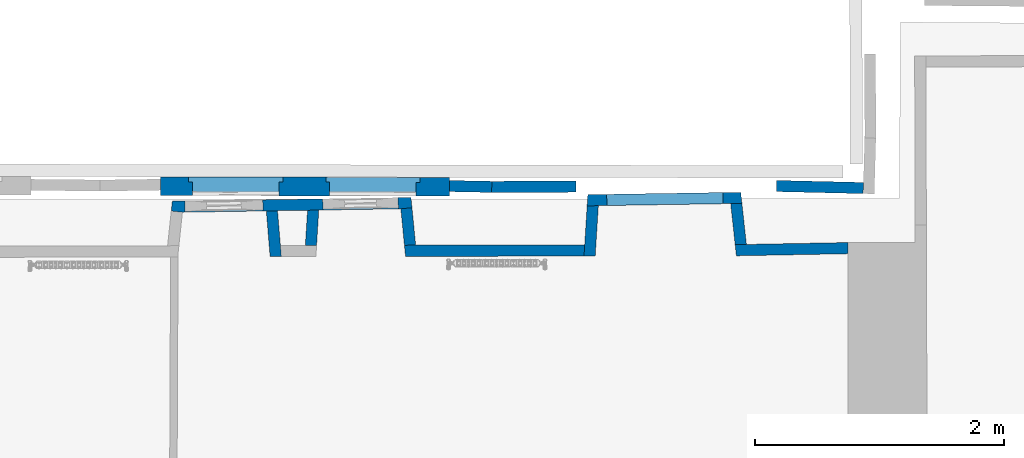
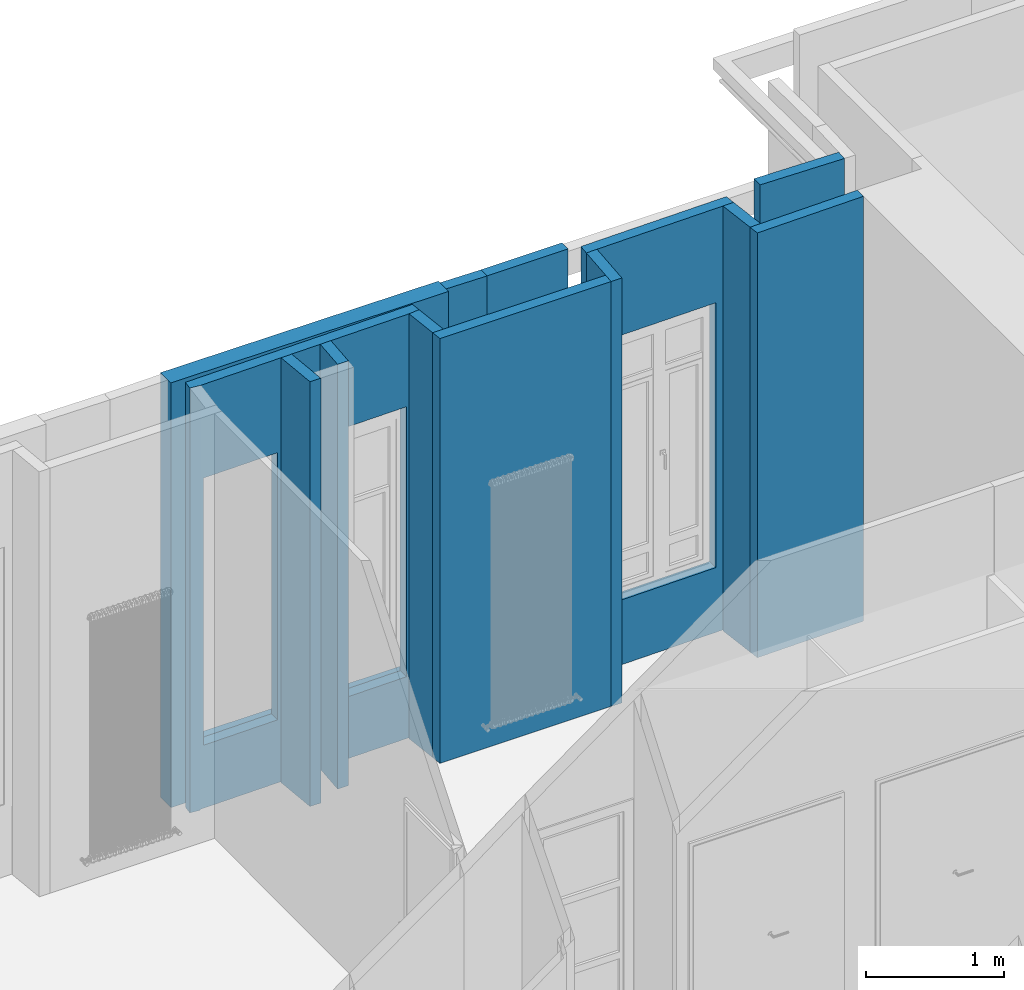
# One storey, part 16 of 66: 13 walls, 8 openings.
"""IFC2X3 building model written with IfcOpenShell, lengths in centimetres."""

from ifc_helpers import new_model, entity, si_unit, converted_unit, direction, frame, origin, origin_with_axes, origin_2d_with_axis, place, context, subcontext, project, spatial, polyline, rectangle, outline, extrude, faceted_brep, shape, material, layer, layer_set, layer_usage, type_object, element, save


model = new_model("IFC2X3")

# Units and contexts
model_context = context("Model", 3, precision=0.0001, world=origin(), true_north=direction((0.225632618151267, 0.974212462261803, 0.0)))
body_context = subcontext(model_context, "Body", "Model", "MODEL_VIEW")
footprint_context = subcontext(model_context, "FootPrint", "Model", "MODEL_VIEW")
profile_context = subcontext(model_context, "Profile", "Model", "MODEL_VIEW")
ifc_project = project(units=[si_unit("LENGTHUNIT", "METRE", prefix="CENTI"), si_unit("AREAUNIT", "SQUARE_METRE", prefix="CENTI"), si_unit("VOLUMEUNIT", "CUBIC_METRE", prefix="CENTI"), converted_unit("PLANEANGLEUNIT", "DEGREE", entity("IfcRatioMeasure", 0.0174532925), si_unit("PLANEANGLEUNIT", "RADIAN"), dimensions=[0, 0, 0, 0, 0, 0, 0])], contexts=[model_context])

# Site, building, storey
site_placement = place(None, origin_with_axes())
site = spatial("IfcSite", under=ifc_project, at=site_placement, Name="Default Site", CompositionType="ELEMENT")
building_placement = place(site_placement, origin_with_axes())
building = spatial("IfcBuilding", under=site, at=building_placement, Name="Default Building", CompositionType="ELEMENT")
storey_placement = place(building_placement, frame((0.0, 0.0, 477.795358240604), z_axis=(0.0, 0.0, 1.0), x_axis=(1.0, 0.0, 0.0)))
storey = spatial("IfcBuildingStorey", under=building, at=storey_placement, Name="Niveau 1", CompositionType="ELEMENT", Elevation=477.795358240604)

# Walls
ifc_material = material(Name="<aucun>")
ifc_layer_1 = layer(ifc_material, 9.0)
ifc_layer_set_1 = layer_set([ifc_layer_1], Name="default")
ifc_layer_usage_1 = layer_usage(ifc_layer_set_1, "AXIS2", "POSITIVE", -4.5)
wall_type_1 = type_object("IfcWallType", Name="default 90", PredefinedType="NOTDEFINED", material=ifc_layer_set_1)
wall_1_placement = place(storey_placement, frame((-122.2620452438, 552.389196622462, 0.0128503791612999), z_axis=(0.0, 0.0, 1.0), x_axis=(0.999997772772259, 0.00211055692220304, 0.0)))
element("IfcWallStandardCase", 1, at=wall_1_placement, inside=storey, type_object=wall_type_1, material=ifc_layer_usage_1, Name="Enveloppe 599598", context=body_context, shape_type="SweptSolid", body=[
    extrude(outline(polyline([(-0.898923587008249, 4.50000000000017), (-0.0289810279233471, -4.50000000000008), (143.497263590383, -4.50000000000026), (144.079388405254, 4.49999999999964), (-0.898923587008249, 4.50000000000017)])), origin_with_axes(), (0.0, 0.0, 1.0), 376.102165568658),
])
ifc_layer_usage_2 = layer_usage(ifc_layer_set_1, "AXIS2", "POSITIVE", -4.5)
wall_2_placement = place(storey_placement, frame((-117.771799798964, 548.012405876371, 0.0128503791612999), z_axis=(0.0, 0.0, 1.0), x_axis=(-0.0983124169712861, 0.995155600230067, 0.0)))
element("IfcWallStandardCase", 2, at=wall_2_placement, inside=storey, type_object=wall_type_1, material=ifc_layer_usage_2, Name="Enveloppe 599631", context=body_context, shape_type="SweptSolid", body=[
    extrude(outline(polyline([(38.8153542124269, 4.49999999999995), (9.36264576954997, 4.50000000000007), (8.49270321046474, -4.49999999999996), (38.8153542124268, -4.50000000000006), (38.8153542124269, 4.49999999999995)])), frame((0.0, 0.0, -3.5527136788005e-13), z_axis=(0.0, 0.0, 1.0), x_axis=(1.0, 0.0, 0.0)), (0.0, 0.0, 1.0), 376.102165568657),
])
ifc_layer_usage_3 = layer_usage(ifc_layer_set_1, "AXIS2", "POSITIVE", -4.5)
wall_3_placement = place(storey_placement, frame((25.7506107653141, 548.15077460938, 0.0128503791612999), z_axis=(0.0, 0.0, 1.0), x_axis=(0.0624393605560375, 0.998048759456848, 0.0)))
element("IfcWallStandardCase", 3, at=wall_3_placement, inside=storey, type_object=wall_type_1, material=ifc_layer_usage_3, Name="Enveloppe 599505", context=body_context, shape_type="SweptSolid", body=[
    extrude(outline(polyline([(-0.240154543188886, 4.50000000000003), (0.341970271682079, -4.50000000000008), (40.9195753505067, -4.50000000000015), (40.2135004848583, 4.49999999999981), (-0.240154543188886, 4.50000000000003)])), frame((0.0, 0.0, 1.77635683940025e-13), z_axis=(0.0, 0.0, 1.0), x_axis=(1.0, 0.0, 0.0)), (0.0, 0.0, 1.0), 376.102165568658),
])
ifc_layer_usage_4 = layer_usage(ifc_layer_set_1, "AXIS2", "POSITIVE", -4.5)
wall_4_placement = place(storey_placement, frame((-226.690951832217, 547.731320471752, 0.0128503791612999), z_axis=(0.0, 0.0, 1.0), x_axis=(-0.0823245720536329, 0.996605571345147, 0.0)))
element("IfcWallStandardCase", 4, at=wall_4_placement, inside=storey, type_object=wall_type_1, material=ifc_layer_usage_4, Name="Enveloppe 600517", context=body_context, shape_type="SweptSolid", body=[
    extrude(outline(polyline([(37.2522362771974, 4.50000000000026), (0.299422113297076, 4.49999999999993), (-0.424901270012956, -4.50000000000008), (36.6518992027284, -4.49999999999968), (37.2522362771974, 4.50000000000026)])), frame((0.0, 0.0, -2.66453525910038e-13), z_axis=(0.0, 0.0, 1.0), x_axis=(1.0, 0.0, 0.0)), (0.0, 0.0, 1.0), 376.102165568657),
])
ifc_layer_usage_5 = layer_usage(ifc_layer_set_1, "AXIS2", "POSITIVE", -4.5)
wall_5_placement = place(storey_placement, frame((148.284601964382, 548.577858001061, 0.0128503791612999), z_axis=(0.0, 0.0, 1.0), x_axis=(-0.108213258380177, 0.994127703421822, 0.0)))
element("IfcWallStandardCase", 5, at=wall_5_placement, inside=storey, type_object=wall_type_1, material=ifc_layer_usage_5, Name="Enveloppe 600231", context=body_context, shape_type="SweptSolid", body=[
    extrude(outline(polyline([(42.5512350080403, 4.5000000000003), (9.34032011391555, 4.50000000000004), (8.53102736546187, -4.49999999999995), (41.7153250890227, -4.49999999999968), (42.5512350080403, 4.5000000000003)])), frame((0.0, 0.0, -8.88178419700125e-14), z_axis=(0.0, 0.0, 1.0), x_axis=(1.0, 0.0, 0.0)), (0.0, 0.0, 1.0), 376.102165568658),
])
ifc_layer_usage_6 = layer_usage(ifc_layer_set_1, "AXIS2", "POSITIVE", -4.5)
wall_6_placement = place(storey_placement, frame((-198.911234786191, 547.710731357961, 0.0128503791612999), z_axis=(0.0, 0.0, 1.0), x_axis=(0.0623847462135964, 0.998052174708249, 0.0)))
element("IfcWallStandardCase", 6, at=wall_6_placement, inside=storey, type_object=wall_type_1, material=ifc_layer_usage_6, Name="Enveloppe 600644", context=body_context, shape_type="SweptSolid", body=[
    extrude(outline(polyline([(8.74467654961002, 4.50000000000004), (9.32630681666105, -4.4999999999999), (37.7970759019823, -4.4971688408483), (37.0917185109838, 4.50000000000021), (8.74467654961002, 4.50000000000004)])), frame((0.0, 0.0, -8.88178419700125e-14), z_axis=(0.0, 0.0, 1.0), x_axis=(1.0, 0.0, 0.0)), (0.0, 0.0, 1.0), 376.102165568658),
])
ifc_layer_usage_7 = layer_usage(ifc_layer_set_1, "AXIS2", "POSITIVE", -4.5)
wall_7_placement = place(storey_placement, frame((143.721002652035, 552.892839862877, 0.0128503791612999), z_axis=(0.0, 0.0, 1.0), x_axis=(0.999824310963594, 0.0187442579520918, 0.0)))
element("IfcWallStandardCase", 7, at=wall_7_placement, inside=storey, type_object=wall_type_1, material=ifc_layer_usage_7, Name="Enveloppe 92581", context=body_context, shape_type="SweptSolid", body=[
    extrude(outline(polyline([(-0.836519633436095, 4.49999999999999), (-0.0272268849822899, -4.50000000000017), (89.782918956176, -4.50000000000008), (89.9243084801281, 4.4999999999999), (-0.836519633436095, 4.49999999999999)])), frame((0.0, 0.0, -1.77635683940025e-13), z_axis=(0.0, 0.0, 1.0), x_axis=(1.0, 0.0, 0.0)), (0.0, 0.0, 1.0), 376.102165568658),
])

# Wall, openings
ifc_layer_usage_8 = layer_usage(ifc_layer_set_1, "AXIS2", "POSITIVE", -4.5)
wall_8_placement = place(storey_placement, frame((28.5653999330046, 593.143177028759, 0.0128503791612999), z_axis=(0.0, 0.0, 1.0), x_axis=(0.999874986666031, 0.0158117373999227, 0.0)))
wall_8 = element("IfcWallStandardCase", 8, at=wall_8_placement, inside=storey, type_object=wall_type_1, material=ifc_layer_usage_8, Name="Enveloppe 92634", context=body_context, shape_type="SweptSolid", body=[
    extrude(outline(polyline([(-4.86686457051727, -4.50000000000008), (119.622427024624, -4.50000000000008), (118.786517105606, 4.49999999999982), (-4.16078970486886, 4.49999999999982), (-4.86686457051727, -4.50000000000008)])), frame((0.0, 0.0, -8.88178419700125e-14), z_axis=(0.0, 0.0, 1.0), x_axis=(1.0, 0.0, 0.0)), (0.0, 0.0, 1.0), 376.102165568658),
])
opening_1_placement = place(wall_8_placement, frame((3.99201043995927, -1.13686837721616e-13, 1.77635683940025e-13), z_axis=(0.0, 0.0, 1.0), x_axis=(-1.0, 2.60208521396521e-16, 0.0)))
cartesian_point_1 = entity("IfcCartesianPoint", [0.0, 0.0, 52.9999999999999])
cartesian_point_2 = entity("IfcCartesianPoint", [-108.569412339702, -4.49999999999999])
element("IfcOpeningElement", 9, at=opening_1_placement, cuts=wall_8, Name="Baie 103201", ObjectType="Recess", shapes=[
    shape(body_context, "Body", "Brep", [faceted_brep([(8.88544016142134e-07, 24.4999869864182, -1.92276757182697e-05), (-108.569413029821, 24.4999870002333, -1.92276757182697e-05), (-108.569413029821, 24.4999870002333, 53.0000017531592), (8.88544016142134e-07, 24.4999869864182, 53.0000017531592), (8.85871851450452e-07, 3.49998051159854, 53.0000017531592), (8.85871851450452e-07, 3.49998051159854, -1.92276757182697e-05), (-1.44246870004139e-07, 3.49998051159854, -1.92276757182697e-05), (-108.569414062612, 3.49999012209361, -1.92276757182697e-05), (-108.569413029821, 24.4999965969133, -1.92276757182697e-05), (-108.569413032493, 3.49999012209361, -1.92276757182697e-05), (-108.569413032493, 3.49999012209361, 53.0000017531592), (-108.569413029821, 24.4999965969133, 53.0000017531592), (-108.569414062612, 3.49999012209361, 53.0000017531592), (-1.44246870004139e-07, 3.49998051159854, 53.0000017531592), (-1.44246868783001e-07, 3.4999901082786, -1.92276757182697e-05), (-1.44246868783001e-07, 3.4999901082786, 53.0000017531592)], [[[0, 1, 2, 3]], [[3, 4, 5, 0]], [[0, 6, 7, 8]], [[8, 9, 10, 11]], [[11, 12, 13, 3]], [[12, 7, 14, 15]]])]),
    shape(profile_context, "Profile", "GeometricCurveSet", [entity("IfcGeometricCurveSet", [entity("IfcPolyline", [cartesian_point_1, entity("IfcCartesianPoint", [0.0, 0.0, -8.88178419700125e-14]), entity("IfcCartesianPoint", [-108.569412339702, 0.0, -8.88178419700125e-14]), entity("IfcCartesianPoint", [-108.569412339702, 0.0, 52.9999999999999]), cartesian_point_1])])]),
    shape(footprint_context, "FootPrint", "GeometricCurveSet", [entity("IfcGeometricCurveSet", [entity("IfcPolyline", [cartesian_point_2, entity("IfcCartesianPoint", [5.55111512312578e-15, -4.49999999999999]), entity("IfcCartesianPoint", [5.55111512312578e-15, 4.49999999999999]), entity("IfcCartesianPoint", [-108.569412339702, 4.49999999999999]), cartesian_point_2])])]),
])
opening_2_placement = place(wall_8_placement, frame((10.9920104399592, -1.13686837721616e-13, 58.1871496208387), z_axis=(0.0, 0.0, 1.0), x_axis=(-1.0, 2.60208521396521e-16, 0.0)))
cartesian_point_3 = entity("IfcCartesianPoint", [0.0, 0.0, 234.405156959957])
cartesian_point_4 = entity("IfcCartesianPoint", [-93.6147419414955, -4.49999999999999])
element("IfcOpeningElement", 10, at=opening_2_placement, cuts=wall_8, Name="4294966424_11", ObjectType="Opening", shapes=[
    shape(body_context, "Body", "SweptSolid", [extrude(outline(polyline([(-5.55111512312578e-15, 234.405156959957), (-5.55111512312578e-15, 0.0), (93.6147419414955, 0.0), (93.6147419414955, 234.405156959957), (-5.55111512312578e-15, 234.405156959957)])), frame((0.0, -14.5, 0.0), z_axis=(0.0, 1.0, 0.0), x_axis=(-1.0, 0.0, 0.0)), (0.0, 0.0, 1.0), 29.0)]),
    shape(profile_context, "Profile", "GeometricCurveSet", [entity("IfcGeometricCurveSet", [entity("IfcPolyline", [cartesian_point_3, entity("IfcCartesianPoint", [0.0, 0.0, 0.0]), entity("IfcCartesianPoint", [-93.6147419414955, 0.0, 0.0]), entity("IfcCartesianPoint", [-93.6147419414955, 0.0, 234.405156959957]), cartesian_point_3])])]),
    shape(footprint_context, "FootPrint", "GeometricCurveSet", [entity("IfcGeometricCurveSet", [entity("IfcPolyline", [cartesian_point_4, entity("IfcCartesianPoint", [5.55111512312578e-15, -4.49999999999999]), entity("IfcCartesianPoint", [5.55111512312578e-15, 4.49999999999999]), entity("IfcCartesianPoint", [-93.6147419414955, 4.49999999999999]), cartesian_point_4])])]),
])

ifc_layer_usage_9 = layer_usage(ifc_layer_set_1, "AXIS2", "POSITIVE", -4.5)
wall_9_placement = place(storey_placement, frame((-307.962944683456, 587.821413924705, 0.0128503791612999), z_axis=(0.0, 0.0, 1.0), x_axis=(0.999874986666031, 0.015811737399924, 0.0)))
wall_9 = element("IfcWallStandardCase", 11, at=wall_9_placement, inside=storey, type_object=wall_type_1, material=ifc_layer_usage_9, Name="Enveloppe 599706", context=body_context, shape_type="SweptSolid", body=[
    extrude(outline(polyline([(106.816633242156, 4.50000000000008), (82.6787422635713, 4.49999694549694), (-1.81313524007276, 4.49999999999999), (-2.77540691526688, -3.41363138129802), (6.158786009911, -4.50000000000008), (82.6785491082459, -4.50000000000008), (106.816633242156, -4.50000000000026), (181.848494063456, -4.50000000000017), (190.817765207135, -3.75691511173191), (190.133697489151, 4.49999999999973), (106.816633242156, 4.50000000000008)])), frame((0.0, 0.0, -2.66453525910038e-13), z_axis=(0.0, 0.0, 1.0), x_axis=(1.0, 0.0, 0.0)), (0.0, 0.0, 1.0), 376.102165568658),
])
opening_3_placement = place(wall_9_placement, frame((5.08544119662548, 1.13686837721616e-13, 1.77635683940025e-13), z_axis=(0.0, 0.0, 1.0), x_axis=(-1.0, 1.22471477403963e-15, 0.0)))
cartesian_point_5 = entity("IfcCartesianPoint", [0.0, 0.0, 54.0])
cartesian_point_6 = entity("IfcCartesianPoint", [-69.3089871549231, -4.50000000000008])
element("IfcOpeningElement", 12, at=opening_3_placement, cuts=wall_9, Name="Baie 103207", ObjectType="Recess", shapes=[
    shape(body_context, "Body", "Brep", [faceted_brep([(7.10847696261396e-06, 24.499992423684, -1.92276756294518e-05), (-69.3089985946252, 24.4999924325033, -1.92276756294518e-05), (-69.3089985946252, 24.4999924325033, 53.9999769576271), (7.10847696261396e-06, 24.499992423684, 53.9999769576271), (7.10580479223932e-06, 3.49998594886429, 53.9999769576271), (7.10580479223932e-06, 3.49998594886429, -1.92276756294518e-05), (6.07568608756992e-06, 3.49998594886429, -1.92276756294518e-05), (-69.3089757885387, 3.50001421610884, -1.92276756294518e-05), (-69.3089985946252, 24.5000210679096, -1.92276756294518e-05), (-69.3089985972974, 3.50001421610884, -1.92276756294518e-05), (-69.3089985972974, 3.50001421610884, 53.9999769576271), (-69.3089985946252, 24.5000210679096, 53.9999769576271), (-69.3089757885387, 3.50001421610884, 53.9999769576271), (6.07568608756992e-06, 3.49998594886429, 53.9999769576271), (6.0756860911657e-06, 3.50001420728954, -1.92276756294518e-05), (6.0756860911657e-06, 3.50001420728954, 53.9999769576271)], [[[0, 1, 2, 3]], [[3, 4, 5, 0]], [[0, 6, 7, 8]], [[8, 9, 10, 11]], [[11, 12, 13, 3]], [[12, 7, 14, 15]]])]),
    shape(profile_context, "Profile", "GeometricCurveSet", [entity("IfcGeometricCurveSet", [entity("IfcPolyline", [cartesian_point_5, entity("IfcCartesianPoint", [0.0, 0.0, 0.0]), entity("IfcCartesianPoint", [-69.308987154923, -8.88178419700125e-14, 0.0]), entity("IfcCartesianPoint", [-69.308987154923, -8.88178419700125e-14, 54.0]), cartesian_point_5])])]),
    shape(footprint_context, "FootPrint", "GeometricCurveSet", [entity("IfcGeometricCurveSet", [entity("IfcPolyline", [cartesian_point_6, entity("IfcCartesianPoint", [0.0, -4.49999999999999]), entity("IfcCartesianPoint", [0.0, 4.49999999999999]), entity("IfcCartesianPoint", [-69.3089871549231, 4.4999999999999]), cartesian_point_6])])]),
])
opening_4_placement = place(wall_9_placement, frame((115.898622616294, 0.0, 1.77635683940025e-13), z_axis=(0.0, 0.0, 1.0), x_axis=(-1.0, 1.79370407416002e-15, 0.0)))
cartesian_point_7 = entity("IfcCartesianPoint", [0.0, 8.88178419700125e-14, 52.9999999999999])
cartesian_point_8 = entity("IfcCartesianPoint", [-67.1698088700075, -4.4999999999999])
element("IfcOpeningElement", 13, at=opening_4_placement, cuts=wall_9, Name="Baie 103204", ObjectType="Recess", shapes=[
    shape(body_context, "Body", "Brep", [faceted_brep([(-8.58939741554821e-07, 24.5000033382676, -1.92276757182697e-05), (-67.1698028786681, 24.5000033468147, -1.92276757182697e-05), (-67.1698028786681, 24.5000033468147, 53.0000017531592), (-8.58939741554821e-07, 24.5000033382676, 53.0000017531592), (-8.61611899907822e-07, 3.49999686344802, 53.0000017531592), (-8.61611899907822e-07, 3.49999686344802, -1.92276757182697e-05), (-1.89173061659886e-06, 3.49999686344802, -1.92276757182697e-05), (-67.1698039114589, 3.50000873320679, -1.92276757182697e-05), (-67.1698028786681, 24.5000152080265, -1.92276757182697e-05), (-67.1698028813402, 3.50000873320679, -1.92276757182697e-05), (-67.1698028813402, 3.50000873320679, 53.0000017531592), (-67.1698028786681, 24.5000152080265, 53.0000017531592), (-67.1698039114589, 3.50000873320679, 53.0000017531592), (-1.89173061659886e-06, 3.49999686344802, 53.0000017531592), (-1.89173061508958e-06, 3.50000872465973, -1.92276757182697e-05), (-1.89173061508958e-06, 3.50000872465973, 53.0000017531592)], [[[0, 1, 2, 3]], [[3, 4, 5, 0]], [[0, 6, 7, 8]], [[8, 9, 10, 11]], [[11, 12, 13, 3]], [[12, 7, 14, 15]]])]),
    shape(profile_context, "Profile", "GeometricCurveSet", [entity("IfcGeometricCurveSet", [entity("IfcPolyline", [cartesian_point_7, entity("IfcCartesianPoint", [0.0, 8.88178419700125e-14, -8.88178419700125e-14]), entity("IfcCartesianPoint", [-67.1698088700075, 8.88178419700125e-14, -8.88178419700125e-14]), entity("IfcCartesianPoint", [-67.1698088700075, 8.88178419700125e-14, 52.9999999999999]), cartesian_point_7])])]),
    shape(footprint_context, "FootPrint", "GeometricCurveSet", [entity("IfcGeometricCurveSet", [entity("IfcPolyline", [cartesian_point_8, entity("IfcCartesianPoint", [2.22044604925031e-14, -4.4999999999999]), entity("IfcCartesianPoint", [2.22044604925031e-14, 4.50000000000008]), entity("IfcCartesianPoint", [-67.1698088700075, 4.50000000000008]), cartesian_point_8])])]),
])
opening_5_placement = place(wall_9_placement, frame((119.148622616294, 0.0, 55.5871496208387), z_axis=(0.0, 0.0, 1.0), x_axis=(-1.0, 1.79370407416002e-15, 0.0)))
cartesian_point_9 = entity("IfcCartesianPoint", [0.0, 0.0, 239.0])
cartesian_point_10 = entity("IfcCartesianPoint", [-60.6698088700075, -4.49999999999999])
element("IfcOpeningElement", 14, at=opening_5_placement, cuts=wall_9, Name="4294966425_11", ObjectType="Opening", shapes=[
    shape(body_context, "Body", "SweptSolid", [extrude(outline(polyline([(-2.22044604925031e-14, 239.0), (-2.22044604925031e-14, 0.0), (60.6698088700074, 0.0), (60.6698088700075, 239.0), (-2.22044604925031e-14, 239.0)])), frame((0.0, -14.5, 0.0), z_axis=(0.0, 1.0, 0.0), x_axis=(-1.0, 0.0, 0.0)), (0.0, 0.0, 1.0), 29.0)]),
    shape(profile_context, "Profile", "GeometricCurveSet", [entity("IfcGeometricCurveSet", [entity("IfcPolyline", [cartesian_point_9, entity("IfcCartesianPoint", [0.0, 0.0, 0.0]), entity("IfcCartesianPoint", [-60.6698088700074, 8.88178419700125e-14, 0.0]), entity("IfcCartesianPoint", [-60.6698088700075, 8.88178419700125e-14, 239.0]), cartesian_point_9])])]),
    shape(footprint_context, "FootPrint", "GeometricCurveSet", [entity("IfcGeometricCurveSet", [entity("IfcPolyline", [cartesian_point_10, entity("IfcCartesianPoint", [2.22044604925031e-14, -4.49999999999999]), entity("IfcCartesianPoint", [2.22044604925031e-14, 4.50000000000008]), entity("IfcCartesianPoint", [-60.6698088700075, 4.50000000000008]), cartesian_point_10])])]),
])
opening_6_placement = place(wall_9_placement, frame((8.33544119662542, 0.0, 56.5871496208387), z_axis=(0.0, 0.0, 1.0), x_axis=(-1.0, 1.22471477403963e-15, 0.0)))
cartesian_point_11 = entity("IfcCartesianPoint", [0.0, -8.88178419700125e-14, 236.5])
cartesian_point_12 = entity("IfcCartesianPoint", [-62.5589871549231, -4.49999999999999])
element("IfcOpeningElement", 15, at=opening_6_placement, cuts=wall_9, Name="4294966422_11", ObjectType="Opening", shapes=[
    shape(body_context, "Body", "SweptSolid", [extrude(outline(polyline([(0.0, 236.5), (0.0, -8.88178419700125e-14), (62.5589871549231, -8.88178419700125e-14), (62.5589871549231, 236.5), (0.0, 236.5)])), frame((0.0, -14.5, 0.0), z_axis=(0.0, 1.0, 0.0), x_axis=(-1.0, 0.0, 0.0)), (0.0, 0.0, 1.0), 29.0)]),
    shape(profile_context, "Profile", "GeometricCurveSet", [entity("IfcGeometricCurveSet", [entity("IfcPolyline", [cartesian_point_11, entity("IfcCartesianPoint", [0.0, -8.88178419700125e-14, -8.88178419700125e-14]), entity("IfcCartesianPoint", [-62.558987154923, 0.0, -8.88178419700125e-14]), entity("IfcCartesianPoint", [-62.558987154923, 0.0, 236.5]), cartesian_point_11])])]),
    shape(footprint_context, "FootPrint", "GeometricCurveSet", [entity("IfcGeometricCurveSet", [entity("IfcPolyline", [cartesian_point_12, entity("IfcCartesianPoint", [0.0, -4.50000000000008]), entity("IfcCartesianPoint", [4.44089209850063e-14, 4.4999999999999]), entity("IfcCartesianPoint", [-62.5589871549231, 4.49999999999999]), cartesian_point_12])])]),
])

# Walls
ifc_layer_usage_10 = layer_usage(ifc_layer_set_1, "AXIS2", "POSITIVE", -4.5)
wall_type_2 = type_object("IfcWallType", Name="default 90", PredefinedType="NOTDEFINED", material=ifc_layer_set_1)
wall_10_placement = place(storey_placement, frame((-52.7583716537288, 603.830867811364, 0.0128503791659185), z_axis=(0.0, 0.0, 1.0), x_axis=(-0.999807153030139, 0.0196381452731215, 0.0)))
element("IfcWallStandardCase", 16, at=wall_10_placement, inside=storey, type_object=wall_type_2, material=ifc_layer_usage_10, Name="Enveloppe 425221", context=body_context, shape_type="SweptSolid", body=[
    extrude(outline(polyline([(34.2442848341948, 4.49999999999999), (0.183374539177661, 4.49999999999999), (0.183374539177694, -4.50000000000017), (34.4004647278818, -4.49999999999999), (34.2442848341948, 4.49999999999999)])), frame((0.0, 0.0, -8.88178419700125e-14), z_axis=(0.0, 0.0, 1.0), x_axis=(1.0, 0.0, 0.0)), (0.0, 0.0, 1.0), 376.102165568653),
])
ifc_layer_usage_11 = layer_usage(ifc_layer_set_1, "AXIS2", "POSITIVE", -4.5)
wall_11_placement = place(storey_placement, frame((245.854158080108, 602.891244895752, 0.0128503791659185), z_axis=(0.0, 0.0, 1.0), x_axis=(-0.999723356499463, 0.0235204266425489, 0.0)))
element("IfcWallStandardCase", 17, at=wall_11_placement, inside=storey, type_object=wall_type_2, material=ifc_layer_usage_11, Name="Enveloppe 425135", context=body_context, shape_type="SweptSolid", body=[
    extrude(rectangle(XDim=9.00000000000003, YDim=69.8495225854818, at=origin_2d_with_axis()), frame((34.9247612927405, 2.66453525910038e-13, 1.77635683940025e-13), z_axis=(0.0, 0.0, 1.0), x_axis=(5.16253706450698e-15, -1.0, 0.0)), (0.0, 0.0, 1.0), 376.102165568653),
])
ifc_layer_usage_12 = layer_usage(ifc_layer_set_1, "AXIS2", "POSITIVE", -4.5)
wall_12_placement = place(storey_placement, frame((-52.6540670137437, 603.834172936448, 0.0128503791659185), z_axis=(0.0, 0.0, 1.0), x_axis=(0.999995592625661, 0.00296896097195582, 0.0)))
element("IfcWallStandardCase", 18, at=wall_12_placement, inside=storey, type_object=wall_type_2, material=ifc_layer_usage_12, Name="Enveloppe 425157", context=body_context, shape_type="SweptSolid", body=[
    extrude(outline(polyline([(-0.389370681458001, -4.49769997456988), (67.4784130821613, -4.49999999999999), (67.4784130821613, 4.49999999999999), (-0.185912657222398, 4.49999999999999), (-0.389370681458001, -4.49769997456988)])), frame((0.0, 0.0, -8.88178419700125e-14), z_axis=(0.0, 0.0, 1.0), x_axis=(1.0, 0.0, 0.0)), (0.0, 0.0, 1.0), 376.102165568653),
])

# Wall, openings
ifc_layer_2 = layer(ifc_material, 15.0)
ifc_layer_set_2 = layer_set([ifc_layer_2], Name="default")
ifc_layer_usage_13 = layer_usage(ifc_layer_set_2, "AXIS2", "POSITIVE", -7.5)
wall_type_3 = type_object("IfcWallType", Name="default 150", PredefinedType="NOTDEFINED", material=ifc_layer_set_2)
wall_13_placement = place(storey_placement, frame((-87.0756151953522, 603.854617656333, 0.0128503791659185), z_axis=(0.0, 0.0, 1.0), x_axis=(-0.999997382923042, 0.00228782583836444, 0.0)))
wall_13 = element("IfcWallStandardCase", 19, at=wall_13_placement, inside=storey, type_object=wall_type_3, material=ifc_layer_usage_13, Name="Enveloppe 426696", context=body_context, shape_type="SweptSolid", body=[
    extrude(rectangle(XDim=14.9999999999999, YDim=232.195462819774, at=origin_2d_with_axis()), frame((116.097731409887, 8.88178419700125e-14, 1.77635683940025e-13), z_axis=(0.0, 0.0, 1.0), x_axis=(7.26415455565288e-16, -1.0, 0.0)), (0.0, 0.0, 1.0), 376.102165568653),
])
opening_7_placement = place(wall_13_placement, frame((133.944708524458, 0.0, 46.2840403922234), z_axis=(0.0, 0.0, 1.0), x_axis=(-1.0, -6.03683769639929e-16, 0.0)))
cartesian_point_13 = entity("IfcCartesianPoint", [-4.44089209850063e-14, 0.0, 248.666170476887])
cartesian_point_14 = entity("IfcCartesianPoint", [-75.6973790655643, -7.50000000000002])
element("IfcOpeningElement", 20, at=opening_7_placement, cuts=wall_13, Name="Baie 426956", ObjectType="Opening", shapes=[
    shape(body_context, "Body", "Brep", [faceted_brep([(-2.99999467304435, -27.500018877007, 248.66618719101), (-72.6973902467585, -27.5000188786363, 248.66618719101), (-72.6973902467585, -27.5000188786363, -3.91006462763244e-06), (-2.99999467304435, -27.500018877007, -3.91006462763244e-06), (-6.65857973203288e-06, 27.4999980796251, -3.91006462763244e-06), (-75.6973883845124, 27.4999980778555, -3.91006462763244e-06), (-75.6973883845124, 27.4999980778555, 248.66618719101), (-6.65857973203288e-06, 27.4999980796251, 248.66618719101), (-2.99999467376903, 3.5000088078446, -3.91006462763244e-06), (-2.99999467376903, 3.5000088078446, 248.66618719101), (-3.0000116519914, 3.5000088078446, 248.66618719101), (-3.0000116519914, 3.5000088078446, -3.91006462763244e-06), (-6.65498438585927e-06, 3.50000880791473, -3.91006462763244e-06), (-6.65498438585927e-06, 3.50000880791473, 248.66618719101), (-6.65498438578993e-06, 3.50000584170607, 248.66618719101), (-6.65498438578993e-06, 3.50000584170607, -3.91006462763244e-06), (-6.65554543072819e-06, 27.4999980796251, -3.91006462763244e-06), (-6.65554543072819e-06, 27.4999980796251, 248.66618719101), (-72.6973902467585, -27.5000200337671, -3.91006462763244e-06), (-72.69738338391, 3.50000770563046, -3.91006462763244e-06), (-75.697388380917, 3.50001067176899, -3.91006462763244e-06), (-75.6973883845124, 27.500002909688, -3.91006462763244e-06), (-72.6973902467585, -27.5000200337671, 248.66618719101), (-72.6973902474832, 3.50000770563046, 248.66618719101), (-72.6973902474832, 3.50000770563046, -3.91006462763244e-06), (-72.69738338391, 3.50000770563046, 248.66618719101), (-75.697388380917, 3.50000770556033, 248.66618719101), (-75.697388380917, 3.50000770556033, -3.91006462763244e-06), (-75.697388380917, 3.50001067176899, 248.66618719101), (-75.6973883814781, 27.500002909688, 248.66618719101), (-75.6973883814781, 27.500002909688, -3.91006462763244e-06), (-75.6973883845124, 27.500002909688, 248.66618719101)], [[[0, 1, 2, 3]], [[4, 5, 6, 7]], [[0, 3, 8, 9]], [[10, 11, 12, 13]], [[14, 15, 16, 17]], [[3, 18, 19, 20, 21, 4, 15, 11]], [[18, 22, 23, 24]], [[19, 25, 26, 27]], [[20, 28, 29, 30]], [[10, 14, 7, 31, 28, 25, 22, 0]]])]),
    shape(profile_context, "Profile", "GeometricCurveSet", [entity("IfcGeometricCurveSet", [entity("IfcPolyline", [cartesian_point_13, entity("IfcCartesianPoint", [-4.44089209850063e-14, 0.0, 0.0]), entity("IfcCartesianPoint", [-75.6973790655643, -8.88178419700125e-14, 0.0]), entity("IfcCartesianPoint", [-75.6973790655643, -8.88178419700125e-14, 248.666170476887]), cartesian_point_13])])]),
    shape(footprint_context, "FootPrint", "GeometricCurveSet", [entity("IfcGeometricCurveSet", [entity("IfcPolyline", [cartesian_point_14, entity("IfcCartesianPoint", [0.0, -7.50000000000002]), entity("IfcCartesianPoint", [0.0, 7.49999999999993]), entity("IfcCartesianPoint", [-75.6973790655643, 7.49999999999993]), cartesian_point_14])])]),
])
opening_8_placement = place(wall_13_placement, frame((23.6765655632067, 0.0, 46.2871496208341), z_axis=(0.0, 0.0, 1.0), x_axis=(-1.0, -6.03683769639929e-16, 0.0)))
cartesian_point_15 = entity("IfcCartesianPoint", [0.0, 0.0, 248.7])
cartesian_point_16 = entity("IfcCartesianPoint", [-75.6726731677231, -7.50000000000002])
element("IfcOpeningElement", 21, at=opening_8_placement, cuts=wall_13, Name="Baie 426955", ObjectType="Opening", shapes=[
    shape(body_context, "Body", "Brep", [faceted_brep([(-2.99999538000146, -27.4999914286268, 248.699985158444), (-72.6726788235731, -27.4999914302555, 248.699985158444), (-72.6726788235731, -27.4999914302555, -1.36971469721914e-05), (-2.99999538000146, -27.4999914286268, -1.36971469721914e-05), (4.66445295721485e-06, 27.4999778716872, -1.36971469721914e-05), (-75.6726768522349, 27.4999778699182, -1.36971469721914e-05), (-75.6726768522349, 27.4999778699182, 248.699985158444), (4.66445295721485e-06, 27.4999778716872, 248.699985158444), (-2.99999538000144, -27.4999914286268, -1.36971469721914e-05), (-2.99999538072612, 3.4999885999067, -1.36971469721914e-05), (-2.99999538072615, 3.4999885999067, 248.699985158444), (-3.00000032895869, 3.4999885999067, 248.699985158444), (-3.00000032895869, 3.4999885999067, -1.36971469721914e-05), (4.66804830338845e-06, 3.49998859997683, -1.36971469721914e-05), (4.66804830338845e-06, 3.49998859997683, 248.699985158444), (4.66804830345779e-06, 3.49998563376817, 248.699985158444), (4.66804830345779e-06, 3.49998563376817, -1.36971469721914e-05), (4.66748725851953e-06, 27.4999778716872, -1.36971469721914e-05), (4.66748725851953e-06, 27.4999778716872, 248.699985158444), (-72.6726788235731, -27.4999837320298, -1.36971469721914e-05), (-72.6726718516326, 3.49999632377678, -1.36971469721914e-05), (-75.6726768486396, 3.49999928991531, -1.36971469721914e-05), (-75.6726768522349, 27.4999915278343, -1.36971469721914e-05), (-72.6726788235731, -27.4999837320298, 248.699985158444), (-72.6726788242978, 3.49999632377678, 248.699985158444), (-72.6726788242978, 3.49999632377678, -1.36971469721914e-05), (-72.6726718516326, 3.49999632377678, 248.699985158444), (-75.6726768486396, 3.49999632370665, 248.699985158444), (-75.6726768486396, 3.49999632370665, -1.36971469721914e-05), (-75.6726768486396, 3.49999928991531, 248.699985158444), (-75.6726768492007, 27.4999915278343, 248.699985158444), (-75.6726768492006, 27.4999915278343, -1.36971469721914e-05), (-75.6726768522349, 27.4999915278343, 248.699985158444)], [[[0, 1, 2, 3]], [[4, 5, 6, 7]], [[0, 8, 9, 10]], [[11, 12, 13, 14]], [[15, 16, 17, 18]], [[3, 19, 20, 21, 22, 4, 16, 12]], [[19, 23, 24, 25]], [[20, 26, 27, 28]], [[21, 29, 30, 31]], [[11, 15, 7, 32, 29, 26, 23, 0]]])]),
    shape(profile_context, "Profile", "GeometricCurveSet", [entity("IfcGeometricCurveSet", [entity("IfcPolyline", [cartesian_point_15, entity("IfcCartesianPoint", [0.0, 0.0, 0.0]), entity("IfcCartesianPoint", [-75.6726731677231, -8.88178419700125e-14, 0.0]), entity("IfcCartesianPoint", [-75.6726731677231, -8.88178419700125e-14, 248.7]), cartesian_point_15])])]),
    shape(footprint_context, "FootPrint", "GeometricCurveSet", [entity("IfcGeometricCurveSet", [entity("IfcPolyline", [cartesian_point_16, entity("IfcCartesianPoint", [0.0, -7.50000000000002]), entity("IfcCartesianPoint", [0.0, 7.49999999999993]), entity("IfcCartesianPoint", [-75.6726731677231, 7.49999999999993]), cartesian_point_16])])]),
])

save(model, "model.ifc")
